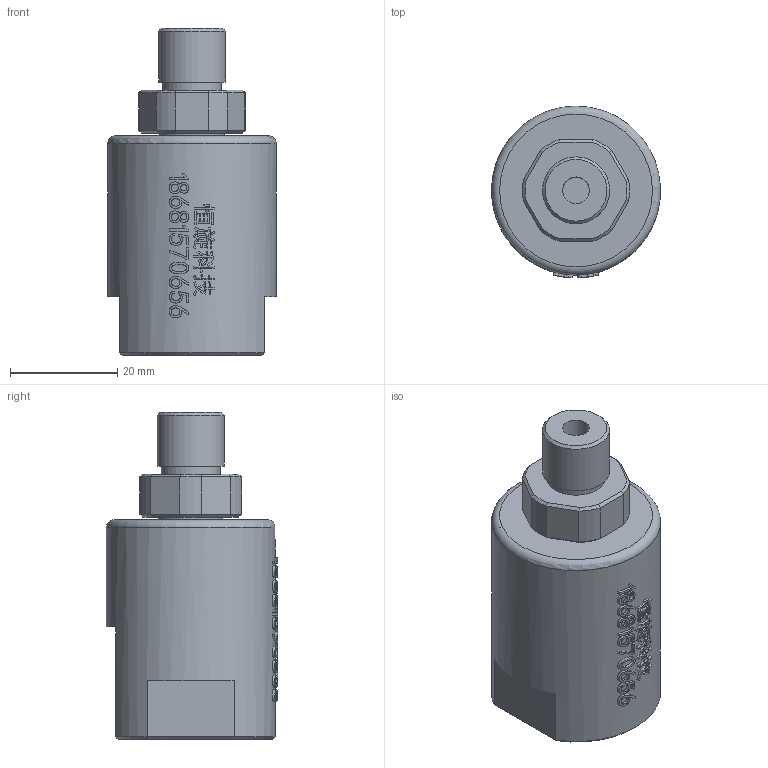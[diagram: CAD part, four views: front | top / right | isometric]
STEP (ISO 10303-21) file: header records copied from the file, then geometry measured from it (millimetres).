
FILE_DESCRIPTION(/* description */ (''),/* implementation_level */ '2;1');
FILE_NAME(/* name */ 'HQY0102.stp',/* time_stamp */ '2025-09-27T17:36:15+08:00',/* author */ (''),/* organization */ (''),/* preprocessor_version */ 'ST-DEVELOPER v16.7',/* originating_system */ 'SIEMENS PLM Software NX 12.0',/* authorisation */ '');
FILE_SCHEMA (('AUTOMOTIVE_DESIGN { 1 0 10303 214 3 1 1 1 }'));
Length unit declared in the file: millimetre
Products named in the file (1): Admi2B88A562883h
Bounding box: 31.49 x 32 x 61 mm (x, y, z)
Volume: 32631.7 mm3; surface area: 8218.8 mm2
Topology: 1 solids, 1 shells, 376 faces, 959 edges, 629 vertices
Faces by surface type: extrusion 154, plane 154, bspline 27, cylinder 24, cone 16, torus 1
Full cylindrical faces by diameter (mm): 5 x1, 6 x1, 11 x1, 11.6 x1, 12 x1, 12.5 x1, 31.5 x1
Entity records: 16666 total; most frequent: CARTESIAN_POINT 8392, ORIENTED_EDGE 1876, DIRECTION 1193, EDGE_CURVE 938, VERTEX_POINT 626, VECTOR 569, B_SPLINE_CURVE_WITH_KNOTS 561, EDGE_LOOP 440
